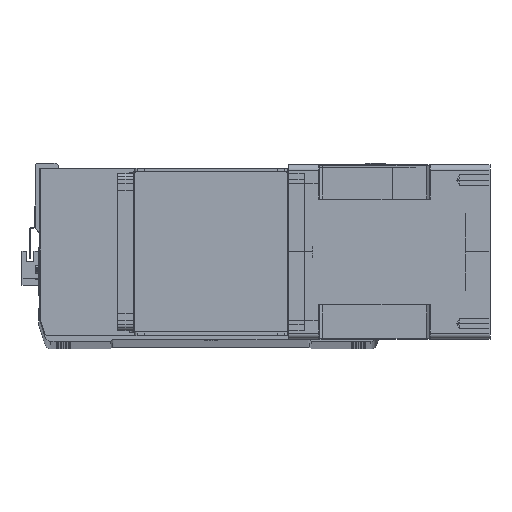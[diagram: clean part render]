
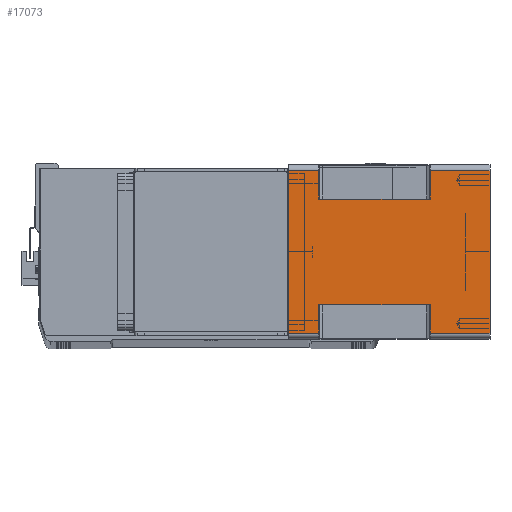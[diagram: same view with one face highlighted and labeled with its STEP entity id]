
A CAD part, top view. The second image highlights one B-rep face of the part: STEP entity #17073.
In plain terms, the highlighted planar face has unit normal (0, 0, 1) as drawn and (1, 0, 0) by its records, which use the part's own axes.
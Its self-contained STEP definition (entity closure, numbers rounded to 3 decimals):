
#128 = VECTOR ( 'NONE', #35432, 1000. ) ;
#476 = DIRECTION ( 'NONE',  ( 0., -1., 0. ) ) ;
#649 = CARTESIAN_POINT ( 'NONE',  ( 71., -43., -164. ) ) ;
#1022 = CARTESIAN_POINT ( 'NONE',  ( 71., 43., -24.5 ) ) ;
#1073 = DIRECTION ( 'NONE',  ( 0., 0., 1. ) ) ;
#1316 = DIRECTION ( 'NONE',  ( 0., 0., -1. ) ) ;
#1910 = VECTOR ( 'NONE', #476, 1000. ) ;
#2053 = CARTESIAN_POINT ( 'NONE',  ( 71., 66., -164. ) ) ;
#2659 = VERTEX_POINT ( 'NONE', #26079 ) ;
#3903 = CARTESIAN_POINT ( 'NONE',  ( 71., 43., -164. ) ) ;
#4850 = CARTESIAN_POINT ( 'NONE',  ( 71., -43., -115.5 ) ) ;
#5188 = LINE ( 'NONE', #3903, #29507 ) ;
#5829 = ORIENTED_EDGE ( 'NONE', *, *, #9879, .T. ) ;
#6032 = CARTESIAN_POINT ( 'NONE',  ( 71., -43., -24.5 ) ) ;
#6495 = VECTOR ( 'NONE', #14611, 1000. ) ;
#6628 = CARTESIAN_POINT ( 'NONE',  ( 71., -66., -164. ) ) ;
#6788 = LINE ( 'NONE', #17701, #14157 ) ;
#7192 = VERTEX_POINT ( 'NONE', #17675 ) ;
#7251 = ORIENTED_EDGE ( 'NONE', *, *, #21520, .T. ) ;
#7955 = LINE ( 'NONE', #16495, #12698 ) ;
#8793 = ORIENTED_EDGE ( 'NONE', *, *, #16093, .T. ) ;
#8812 = CARTESIAN_POINT ( 'NONE',  ( 71., -66., 0. ) ) ;
#9117 = EDGE_CURVE ( 'NONE', #16327, #23729, #13851, .T. ) ;
#9782 = LINE ( 'NONE', #22095, #22771 ) ;
#9879 = EDGE_CURVE ( 'NONE', #10035, #2659, #15870, .T. ) ;
#10035 = VERTEX_POINT ( 'NONE', #13958 ) ;
#11005 = LINE ( 'NONE', #16537, #33621 ) ;
#11072 = DIRECTION ( 'NONE',  ( 0., -1., 0. ) ) ;
#11801 = VERTEX_POINT ( 'NONE', #34608 ) ;
#12698 = VECTOR ( 'NONE', #1073, 1000. ) ;
#12757 = DIRECTION ( 'NONE',  ( 0., 0., 1. ) ) ;
#13441 = VECTOR ( 'NONE', #19202, 1000. ) ;
#13851 = LINE ( 'NONE', #649, #6495 ) ;
#13887 = DIRECTION ( 'NONE',  ( 0., 1., 0. ) ) ;
#13905 = LINE ( 'NONE', #35876, #13441 ) ;
#13958 = CARTESIAN_POINT ( 'NONE',  ( 71., 66., -164. ) ) ;
#14157 = VECTOR ( 'NONE', #23702, 1000. ) ;
#14322 = CARTESIAN_POINT ( 'NONE',  ( 71., -66., -115.5 ) ) ;
#14348 = ORIENTED_EDGE ( 'NONE', *, *, #14547, .F. ) ;
#14508 = ORIENTED_EDGE ( 'NONE', *, *, #21082, .F. ) ;
#14547 = EDGE_CURVE ( 'NONE', #34798, #11801, #5188, .T. ) ;
#14611 = DIRECTION ( 'NONE',  ( 0., 0., 1. ) ) ;
#15305 = CARTESIAN_POINT ( 'NONE',  ( 71., 66., 0. ) ) ;
#15379 = CARTESIAN_POINT ( 'NONE',  ( 71., -66., -164. ) ) ;
#15695 = VERTEX_POINT ( 'NONE', #8812 ) ;
#15870 = LINE ( 'NONE', #2053, #33351 ) ;
#15925 = CARTESIAN_POINT ( 'NONE',  ( 71., -66., -164. ) ) ;
#16093 = EDGE_CURVE ( 'NONE', #16327, #19264, #25812, .T. ) ;
#16237 = VERTEX_POINT ( 'NONE', #15379 ) ;
#16327 = VERTEX_POINT ( 'NONE', #4850 ) ;
#16495 = CARTESIAN_POINT ( 'NONE',  ( 71., 66., -164. ) ) ;
#16537 = CARTESIAN_POINT ( 'NONE',  ( 71., -66., 0. ) ) ;
#16749 = LINE ( 'NONE', #26813, #25034 ) ;
#17073 = ADVANCED_FACE ( 'NONE', ( #31479 ), #17378, .T. ) ;
#17378 = PLANE ( 'NONE',  #35344 ) ;
#17675 = CARTESIAN_POINT ( 'NONE',  ( 71., 66., -24.5 ) ) ;
#17701 = CARTESIAN_POINT ( 'NONE',  ( 71., -66., -24.5 ) ) ;
#17839 = ORIENTED_EDGE ( 'NONE', *, *, #32347, .F. ) ;
#19202 = DIRECTION ( 'NONE',  ( 0., 1., 0. ) ) ;
#19223 = EDGE_LOOP ( 'NONE', ( #26405, #8793, #35796, #35601, #5829, #25486, #14348, #33136, #7251, #14508, #17839, #36005 ) ) ;
#19264 = VERTEX_POINT ( 'NONE', #33025 ) ;
#20807 = CARTESIAN_POINT ( 'NONE',  ( 71., -66., -24.5 ) ) ;
#21082 = EDGE_CURVE ( 'NONE', #15695, #25451, #11005, .T. ) ;
#21520 = EDGE_CURVE ( 'NONE', #7192, #25451, #7955, .T. ) ;
#22095 = CARTESIAN_POINT ( 'NONE',  ( 71., 43., -115.5 ) ) ;
#22771 = VECTOR ( 'NONE', #11072, 1000. ) ;
#23702 = DIRECTION ( 'NONE',  ( 0., 1., 0. ) ) ;
#23729 = VERTEX_POINT ( 'NONE', #6032 ) ;
#24304 = EDGE_CURVE ( 'NONE', #2659, #11801, #9782, .T. ) ;
#24471 = EDGE_CURVE ( 'NONE', #16237, #10035, #33257, .T. ) ;
#25034 = VECTOR ( 'NONE', #26939, 1000. ) ;
#25451 = VERTEX_POINT ( 'NONE', #15305 ) ;
#25486 = ORIENTED_EDGE ( 'NONE', *, *, #24304, .T. ) ;
#25812 = LINE ( 'NONE', #14322, #1910 ) ;
#25908 = DIRECTION ( 'NONE',  ( 1., 0., 0. ) ) ;
#26079 = CARTESIAN_POINT ( 'NONE',  ( 71., 66., -115.5 ) ) ;
#26405 = ORIENTED_EDGE ( 'NONE', *, *, #9117, .F. ) ;
#26668 = LINE ( 'NONE', #15925, #128 ) ;
#26813 = CARTESIAN_POINT ( 'NONE',  ( 71., -66., -164. ) ) ;
#26939 = DIRECTION ( 'NONE',  ( 0., 0., 1. ) ) ;
#27318 = VERTEX_POINT ( 'NONE', #20807 ) ;
#28804 = CARTESIAN_POINT ( 'NONE',  ( 71., -66., -164. ) ) ;
#28858 = DIRECTION ( 'NONE',  ( 0., 1., 0. ) ) ;
#29507 = VECTOR ( 'NONE', #1316, 1000. ) ;
#29753 = EDGE_CURVE ( 'NONE', #27318, #23729, #13905, .T. ) ;
#31479 = FACE_OUTER_BOUND ( 'NONE', #19223, .T. ) ;
#31519 = VECTOR ( 'NONE', #31871, 1000. ) ;
#31871 = DIRECTION ( 'NONE',  ( 0., 1., 0. ) ) ;
#32347 = EDGE_CURVE ( 'NONE', #27318, #15695, #26668, .T. ) ;
#33025 = CARTESIAN_POINT ( 'NONE',  ( 71., -66., -115.5 ) ) ;
#33136 = ORIENTED_EDGE ( 'NONE', *, *, #33713, .T. ) ;
#33257 = LINE ( 'NONE', #28804, #31519 ) ;
#33351 = VECTOR ( 'NONE', #12757, 1000. ) ;
#33505 = EDGE_CURVE ( 'NONE', #16237, #19264, #16749, .T. ) ;
#33621 = VECTOR ( 'NONE', #13887, 1000. ) ;
#33713 = EDGE_CURVE ( 'NONE', #34798, #7192, #6788, .T. ) ;
#34608 = CARTESIAN_POINT ( 'NONE',  ( 71., 43., -115.5 ) ) ;
#34798 = VERTEX_POINT ( 'NONE', #1022 ) ;
#35344 = AXIS2_PLACEMENT_3D ( 'NONE', #6628, #25908, #28858 ) ;
#35432 = DIRECTION ( 'NONE',  ( 0., 0., 1. ) ) ;
#35601 = ORIENTED_EDGE ( 'NONE', *, *, #24471, .T. ) ;
#35796 = ORIENTED_EDGE ( 'NONE', *, *, #33505, .F. ) ;
#35876 = CARTESIAN_POINT ( 'NONE',  ( 71., -43., -24.5 ) ) ;
#36005 = ORIENTED_EDGE ( 'NONE', *, *, #29753, .T. ) ;
